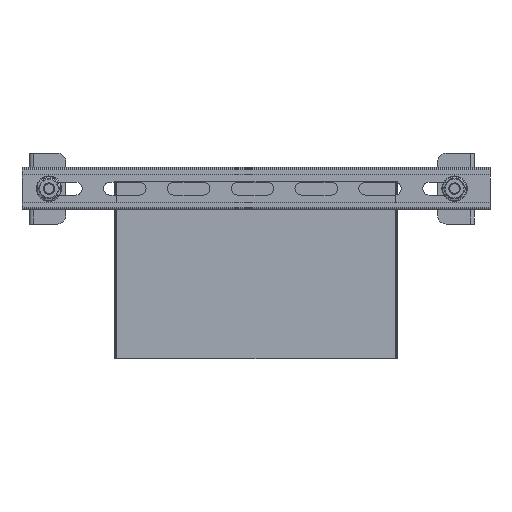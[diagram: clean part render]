
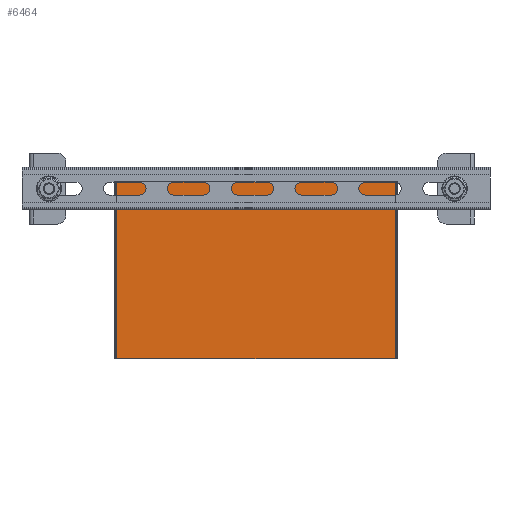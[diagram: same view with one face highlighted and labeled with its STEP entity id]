
A CAD part, front view. The second image highlights one B-rep face of the part: STEP entity #6464.
In plain terms, the highlighted planar face has unit normal (0, -1, 0).
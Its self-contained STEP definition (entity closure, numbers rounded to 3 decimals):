
#382 = CARTESIAN_POINT ( 'NONE',  ( 1.9, 0., 0. ) ) ;
#657 = CARTESIAN_POINT ( 'NONE',  ( 0., 0., 0. ) ) ;
#666 = CARTESIAN_POINT ( 'NONE',  ( 198.1, 0., 0. ) ) ;
#1336 = EDGE_CURVE ( 'NONE', #3517, #5752, #10240, .T. ) ;
#1872 = CARTESIAN_POINT ( 'NONE',  ( 0., 0., -125. ) ) ;
#2002 = CARTESIAN_POINT ( 'NONE',  ( 0., 0., -125. ) ) ;
#2114 = VERTEX_POINT ( 'NONE', #666 ) ;
#2187 = CARTESIAN_POINT ( 'NONE',  ( 1.9, 0., -125. ) ) ;
#2421 = ORIENTED_EDGE ( 'NONE', *, *, #4218, .F. ) ;
#2801 = EDGE_LOOP ( 'NONE', ( #5573, #2421, #9629, #6698 ) ) ;
#3014 = LINE ( 'NONE', #2187, #5830 ) ;
#3517 = VERTEX_POINT ( 'NONE', #9054 ) ;
#3683 = DIRECTION ( 'NONE',  ( 0., 0., 1. ) ) ;
#4218 = EDGE_CURVE ( 'NONE', #3517, #6561, #3014, .T. ) ;
#5573 = ORIENTED_EDGE ( 'NONE', *, *, #13152, .F. ) ;
#5752 = VERTEX_POINT ( 'NONE', #12411 ) ;
#5830 = VECTOR ( 'NONE', #12676, 1000. ) ;
#6141 = DIRECTION ( 'NONE',  ( 0., -1., 0. ) ) ;
#6151 = EDGE_CURVE ( 'NONE', #5752, #2114, #8730, .T. ) ;
#6464 = ADVANCED_FACE ( 'NONE', ( #9532 ), #12349, .T. ) ;
#6561 = VERTEX_POINT ( 'NONE', #382 ) ;
#6698 = ORIENTED_EDGE ( 'NONE', *, *, #6151, .T. ) ;
#7136 = VECTOR ( 'NONE', #13129, 1000. ) ;
#8019 = DIRECTION ( 'NONE',  ( 1., 0., 0. ) ) ;
#8730 = LINE ( 'NONE', #9917, #9053 ) ;
#9053 = VECTOR ( 'NONE', #3683, 1000. ) ;
#9054 = CARTESIAN_POINT ( 'NONE',  ( 1.9, 0., -125. ) ) ;
#9532 = FACE_OUTER_BOUND ( 'NONE', #2801, .T. ) ;
#9629 = ORIENTED_EDGE ( 'NONE', *, *, #1336, .T. ) ;
#9718 = AXIS2_PLACEMENT_3D ( 'NONE', #1872, #6141, #13408 ) ;
#9917 = CARTESIAN_POINT ( 'NONE',  ( 198.1, 0., -125. ) ) ;
#10240 = LINE ( 'NONE', #2002, #7136 ) ;
#10258 = LINE ( 'NONE', #657, #12715 ) ;
#12349 = PLANE ( 'NONE',  #9718 ) ;
#12411 = CARTESIAN_POINT ( 'NONE',  ( 198.1, 0., -125. ) ) ;
#12676 = DIRECTION ( 'NONE',  ( 0., 0., 1. ) ) ;
#12715 = VECTOR ( 'NONE', #8019, 1000. ) ;
#13129 = DIRECTION ( 'NONE',  ( 1., 0., 0. ) ) ;
#13152 = EDGE_CURVE ( 'NONE', #6561, #2114, #10258, .T. ) ;
#13408 = DIRECTION ( 'NONE',  ( 0., 0., -1. ) ) ;
